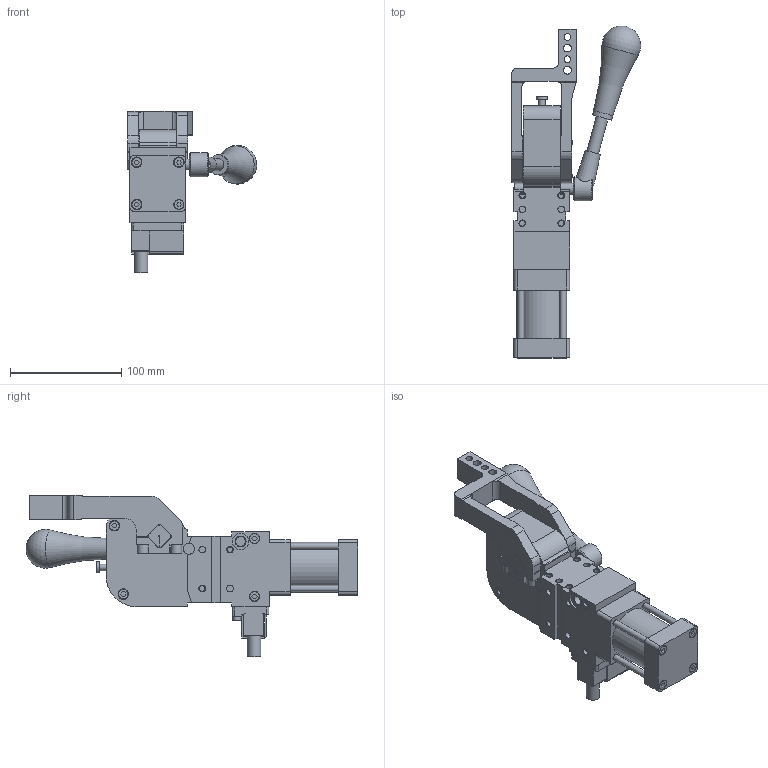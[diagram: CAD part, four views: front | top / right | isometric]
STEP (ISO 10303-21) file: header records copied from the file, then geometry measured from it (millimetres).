
FILE_DESCRIPTION(/* description */ ('STEP AP214'),/* implementation_level */ '2;1');
FILE_NAME(/* name */ 'JSCKV40X15AM1RHLKG(0) 43.5',/* time_stamp */ '2024-09-21T15:03:21+02:00',/* author */ ('License CC BY-ND 4.0'),/* organization */ ('CADENAS'),/* preprocessor_version */ 'ST-DEVELOPER v19.3',/* originating_system */ 'PARTsolutions',/* authorisation */ ' ');
FILE_SCHEMA (('AUTOMOTIVE_DESIGN {1 0 10303 214 3 1 1}'));
Length unit declared in the file: millimetre
Products named in the file (6): JSCKV40X15AM1RHLKG(0) 43.5; JSCKV40'X'.15AM1RHLKG(043.5); 1540K HL 0; JCK40_hand; 40(0); F-JCK40AM1R
Assembly tree (4 placements, depth 2):
  JSCKV40X15AM1RHLKG(0) 43.5
    1540K HL 0
    JCK40_hand
    40(0)
    F-JCK40AM1R
  JSCKV40'X'.15AM1RHLKG(043.5)
Bounding box: 116.51 x 298.43 x 145.5 mm (x, y, z)
Volume: 686993 mm3; surface area: 129905.9 mm2
Topology: 4 solids, 11 shells, 472 faces, 1137 edges, 750 vertices
Faces by surface type: plane 307, cylinder 142, cone 21, sphere 1, torus 1
Full cylindrical faces by diameter (mm): 4 x2, 4.5 x2, 4.917 x12, 5 x4, 5.5 x8, 5.8 x1, 6 x10, 7 x4, 8.5 x8, 8.566 x4, 9 x3, 9.5 x5, 10 x6, 10.7 x1, 12 x1, 15 x2, 18 x1, 21.6 x1, 22 x2, 40 x1, 45 x1
Entity records: 15556 total; most frequent: DIRECTION 2274, CARTESIAN_POINT 2274, ORIENTED_EDGE 2018, EDGE_CURVE 1009, AXIS2_PLACEMENT_3D 796, VERTEX_POINT 722, LINE 682, VECTOR 682
